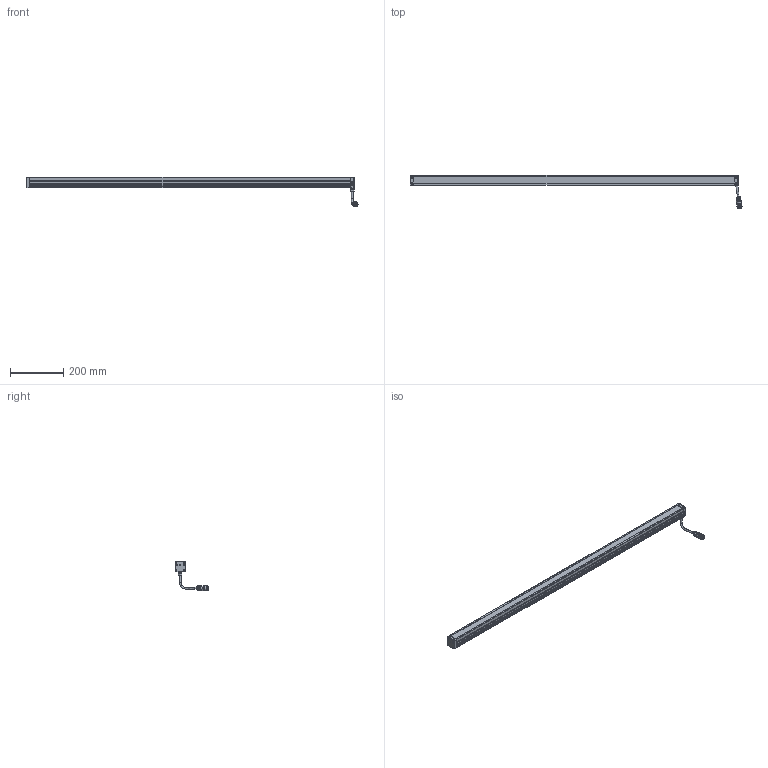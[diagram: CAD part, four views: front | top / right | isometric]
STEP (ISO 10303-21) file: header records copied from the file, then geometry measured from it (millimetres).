
FILE_DESCRIPTION(/* description */ (''),/* implementation_level */ '2;1');
FILE_NAME(/* name */ 'LBHP1200',/* time_stamp */ '2025-01-14T08:08:55+01:00',/* author */ (''),/* organization */ ('iiM AG'),/* preprocessor_version */ 'ST-DEVELOPER v16.7',/* originating_system */ 'DEX',/* authorisation */ $);
FILE_SCHEMA (('TECHNICAL_DATA_PACKAGING','AUTOMOTIVE_DESIGN {1 0 10303 214 3 1 1}'));
Length unit declared in the file: millimetre
Products named in the file (1): step export
Bounding box: 1244.79 x 126.2 x 109.58 mm (x, y, z)
Volume: 1572418.1 mm3; surface area: 349717.9 mm2
Topology: 2 solids, 2 shells, 882 faces, 2334 edges, 1476 vertices
Faces by surface type: cylinder 368, plane 336, cone 138, sphere 21, torus 16, bspline 3
Full cylindrical faces by diameter (mm): 1.001 x12, 2.693 x4, 3 x2, 3.1 x4, 3.242 x6, 3.8 x8, 5.6 x8, 6 x8, 6.8 x2, 8.008 x1, 10 x1, 11 x1, 12.9 x2, 14 x1, 15.015 x1, 16.016 x1, 17.518 x1, 18.519 x3, 18.619 x2
Entity records: 32582 total; most frequent: CARTESIAN_POINT 6224, ORIENTED_EDGE 4118, DIRECTION 4048, EDGE_CURVE 2059, AXIS2_PLACEMENT_3D 1523, VERTEX_POINT 1383, FACE_BOUND 1100, EDGE_LOOP 1086
